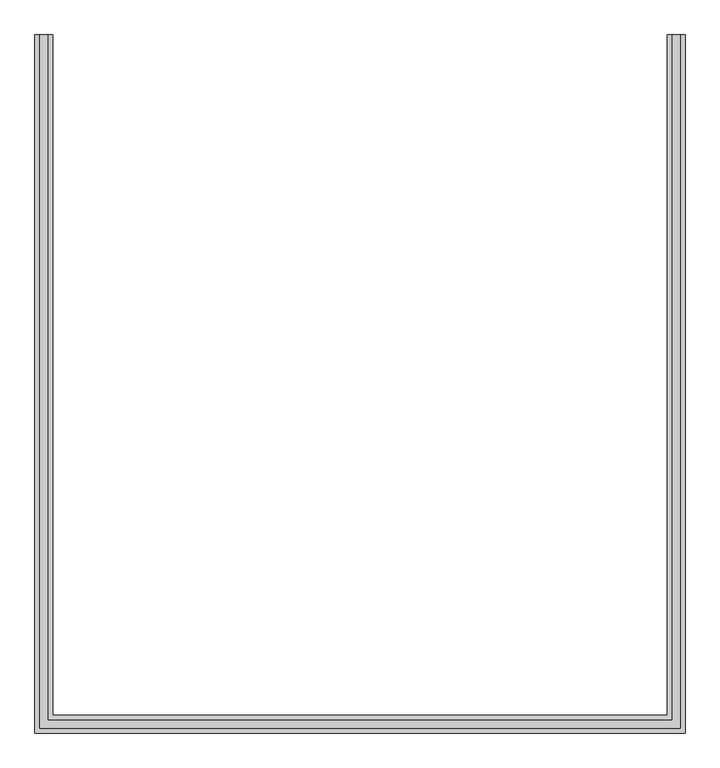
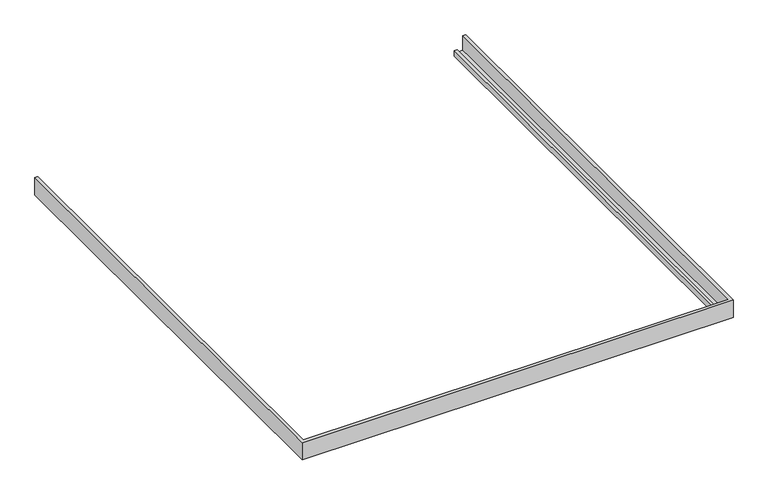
"""IFC4 building model written with IfcOpenShell, lengths in millimetres: proxy geometry, 常规模型 1 : 常规模型 1."""

from ifc_helpers import new_model, si_unit, origin, place, context, project, spatial, faceted_brep, source, transform, mapped, element, save


def generic_models_e7bdc071(model_context):
    return source(origin(), model_context, "Body", "Brep", [
        faceted_brep([(9654.6008885, 13671.4406182, 3900.0), (9654.6008885, 13671.4406182, 3150.0), (9174.6008885, 13671.4406182, 3150.0), (9174.6008885, 13671.4406182, 3390.0), (9294.6008885, 13671.4406182, 3390.0), (9294.6008885, 13671.4406182, 3270.0), (9534.6008885, 13671.4406182, 3270.0), (9534.6008885, 13671.4406182, 3900.0), (9654.6008885, -5228.5593818, 3900.0), (9654.6008885, -5228.5593818, 3150.0), (-7945.3991115, -5228.5593818, 3150.0), (-7945.3991115, 13671.4406182, 3150.0), (-7465.3991115, 13671.4406182, 3150.0), (-7465.3991115, -4748.5593818, 3150.0), (9174.6008885, -4748.5593818, 3150.0), (9174.6008885, -4748.5593818, 3390.0), (-7465.3991115, -4748.5593818, 3390.0), (-7465.3991115, 13671.4406182, 3390.0), (-7585.3991115, 13671.4406182, 3390.0), (-7585.3991115, -4868.5593818, 3390.0), (9294.6008885, -4868.5593818, 3390.0), (9294.6008885, -4868.5593818, 3270.0), (-7585.3991115, -4868.5593818, 3270.0), (-7585.3991115, 13671.4406182, 3270.0), (-7825.3991115, 13671.4406182, 3270.0), (-7825.3991115, -5108.5593818, 3270.0), (9534.6008885, -5108.5593818, 3270.0), (9534.6008885, -5108.5593818, 3900.0), (-7825.3991115, -5108.5593818, 3900.0), (-7825.3991115, 13671.4406182, 3900.0), (-7945.3991115, 13671.4406182, 3900.0), (-7945.3991115, -5228.5593818, 3900.0)], [[[0, 1, 2, 3, 4, 5, 6, 7]], [[1, 0, 8, 9]], [[2, 1, 9, 10, 11, 12, 13, 14]], [[3, 2, 14, 15]], [[4, 3, 15, 16, 17, 18, 19, 20]], [[5, 4, 20, 21]], [[6, 5, 21, 22, 23, 24, 25, 26]], [[7, 6, 26, 27]], [[0, 7, 27, 28, 29, 30, 31, 8]], [[9, 8, 31, 10]], [[15, 14, 13, 16]], [[21, 20, 19, 22]], [[27, 26, 25, 28]], [[30, 29, 24, 23, 18, 17, 12, 11]], [[10, 31, 30, 11]], [[16, 13, 12, 17]], [[22, 19, 18, 23]], [[28, 25, 24, 29]]]),
    ])


if __name__ == "__main__":
    model = new_model("IFC4")
    model_context = context("Model", 3, world=origin())
    ifc_project = project(units=[si_unit("LENGTHUNIT", "METRE", prefix="MILLI")], contexts=[model_context])
    site = spatial("IfcSite", under=ifc_project)
    building = spatial("IfcBuilding", under=site)
    placement = place(None, origin())
    generic_models_shape = generic_models_e7bdc071(model_context)
    element("IfcBuildingElementProxy", 1, Name="常规模型 1 : 常规模型 1", ObjectType="常规模型 1 : 常规模型 1", at=placement, inside=building, context=model_context, shape_type="MappedRepresentation", body=[
        mapped(generic_models_shape, transform((0.0, 0.0, 0.0), x_axis=(1.0, 0.0, 0.0), y_axis=(0.0, 1.0, 0.0), z_axis=(0.0, 0.0, 1.0))),
    ])
    save(model, "model.ifc")
